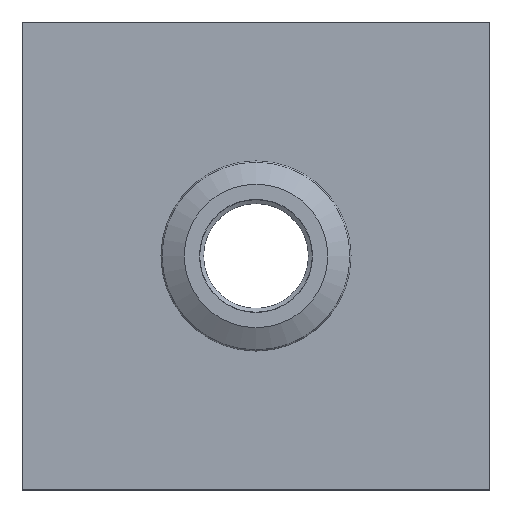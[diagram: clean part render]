
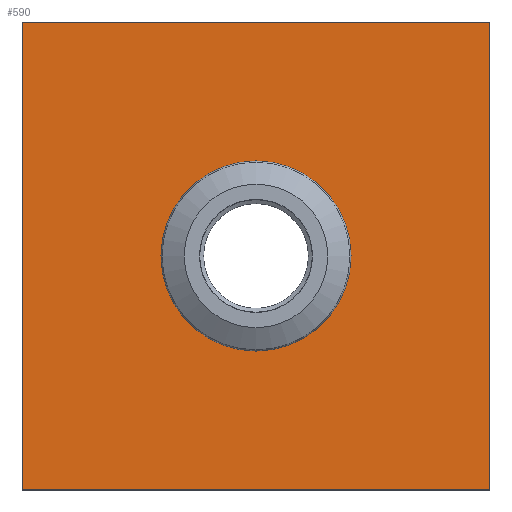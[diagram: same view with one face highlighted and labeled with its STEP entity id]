
A CAD part, top view. The second image highlights one B-rep face of the part: STEP entity #590.
In plain terms, the highlighted planar face has unit normal (0, 0, 1).
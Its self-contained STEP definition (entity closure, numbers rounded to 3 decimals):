
#17=LINE('',#967,#29);
#20=LINE('',#973,#32);
#23=LINE('',#979,#35);
#26=LINE('',#983,#38);
#29=VECTOR('',#791,480.);
#32=VECTOR('',#796,480.);
#35=VECTOR('',#801,480.);
#38=VECTOR('',#806,480.);
#119=FACE_BOUND('',#192,.T.);
#120=FACE_BOUND('',#193,.T.);
#192=EDGE_LOOP('',(#440));
#193=EDGE_LOOP('',(#441,#442,#443,#444));
#259=CIRCLE('',#657,70.);
#301=VERTEX_POINT('',#956);
#305=VERTEX_POINT('',#964);
#306=VERTEX_POINT('',#966);
#308=VERTEX_POINT('',#972);
#310=VERTEX_POINT('',#978);
#351=EDGE_CURVE('',#301,#301,#259,.T.);
#355=EDGE_CURVE('',#306,#305,#17,.T.);
#358=EDGE_CURVE('',#308,#306,#20,.T.);
#361=EDGE_CURVE('',#310,#308,#23,.T.);
#364=EDGE_CURVE('',#305,#310,#26,.T.);
#440=ORIENTED_EDGE('',*,*,#351,.T.);
#441=ORIENTED_EDGE('',*,*,#364,.T.);
#442=ORIENTED_EDGE('',*,*,#361,.T.);
#443=ORIENTED_EDGE('',*,*,#358,.T.);
#444=ORIENTED_EDGE('',*,*,#355,.T.);
#506=PLANE('',#663);
#590=ADVANCED_FACE('',(#119,#120),#506,.T.);
#657=AXIS2_PLACEMENT_3D('',#957,#783,#784);
#663=AXIS2_PLACEMENT_3D('',#984,#807,#808);
#783=DIRECTION('center_axis',(0.,0.,-1.));
#784=DIRECTION('ref_axis',(-1.,0.,0.));
#791=DIRECTION('',(0.,-1.,0.));
#796=DIRECTION('',(-1.,0.,0.));
#801=DIRECTION('',(0.,1.,0.));
#806=DIRECTION('',(1.,0.,0.));
#807=DIRECTION('center_axis',(0.,0.,1.));
#808=DIRECTION('ref_axis',(1.,0.,0.));
#956=CARTESIAN_POINT('',(70.,0.,1.2));
#957=CARTESIAN_POINT('Origin',(0.,0.,1.2));
#964=CARTESIAN_POINT('',(-240.,-240.,1.2));
#966=CARTESIAN_POINT('',(-240.,240.,1.2));
#967=CARTESIAN_POINT('',(-240.,240.,1.2));
#972=CARTESIAN_POINT('',(240.,240.,1.2));
#973=CARTESIAN_POINT('',(240.,240.,1.2));
#978=CARTESIAN_POINT('',(240.,-240.,1.2));
#979=CARTESIAN_POINT('',(240.,-240.,1.2));
#983=CARTESIAN_POINT('',(-240.,-240.,1.2));
#984=CARTESIAN_POINT('Origin',(0.,0.,1.2));
